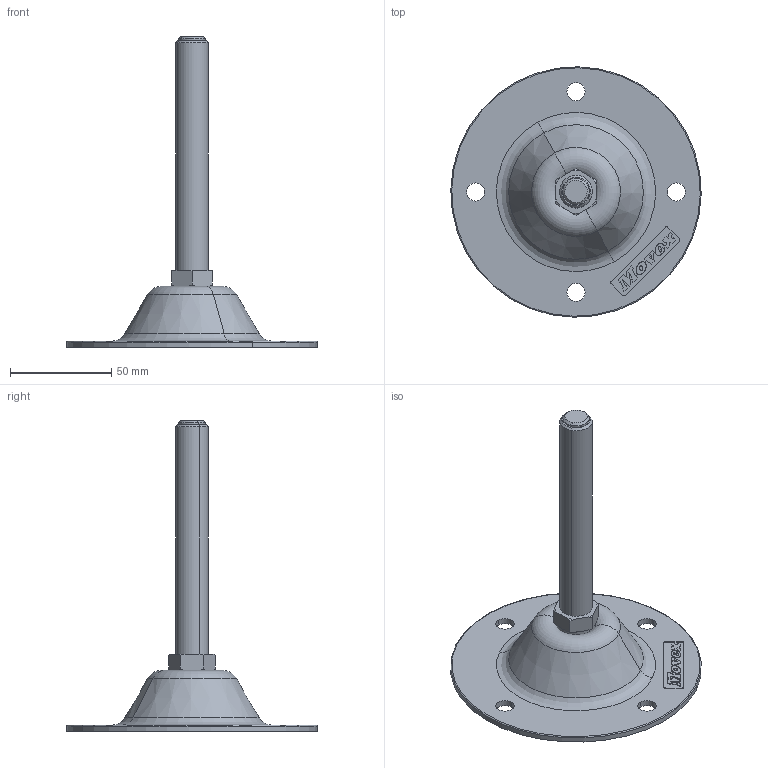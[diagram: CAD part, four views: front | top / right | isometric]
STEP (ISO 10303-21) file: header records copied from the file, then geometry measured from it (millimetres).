
FILE_DESCRIPTION(('CATIA V5 STEP Exchange'),'2;1');
FILE_NAME('X:\CODICI MOVEX\3D per clienti\Daryna Itsenko\21-07-2015\P96001H_01.stp','2015-07-21T07:11:25+00:00',('none'),('none'),'Version 5-6 Release 2012','CATIA V5 STEP AP203','none');
FILE_SCHEMA(('CONFIG_CONTROL_DESIGN'));
Length unit declared in the file: millimetre
Products named in the file (1): P96001H_01
Assembly tree (4 placements, depth 2):
  P96001H_01
    #57
    #15424
    #16605
    #16774
Bounding box: 123.47 x 123.47 x 153 mm (x, y, z)
Volume: 70638.1 mm3; surface area: 38779 mm2
Topology: 4 solids, 4 shells, 554 faces, 1562 edges, 1026 vertices
Faces by surface type: plane 472, cylinder 32, cone 32, torus 16, revolution 2
Entity records: 17309 total; most frequent: CARTESIAN_POINT 3211, ORIENTED_EDGE 3116, DIRECTION 2508, EDGE_CURVE 1558, VECTOR 1390, LINE 1390, VERTEX_POINT 1026, AXIS2_PLACEMENT_3D 625
